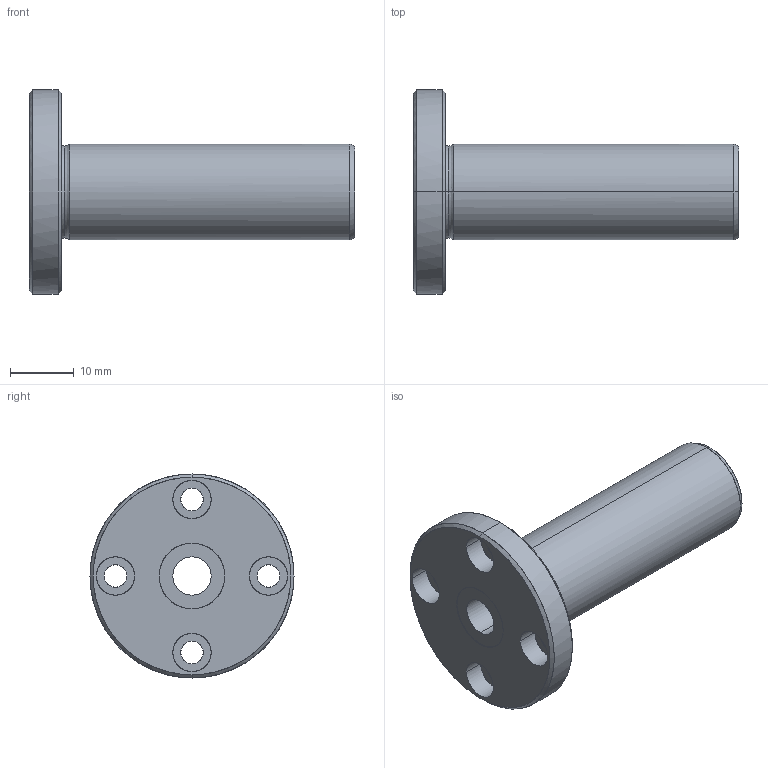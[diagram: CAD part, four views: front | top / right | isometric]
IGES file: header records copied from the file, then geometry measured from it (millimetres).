
Global section: file name: No Iges File Name specified; native system: AutoDesk Inventor R10; preprocessor: AutoDesk Inventor Iges Exporter R10; author: No Author specified; organization: No Organization specified; date: 20101211.161456; units: millimetre
Bounding box: 51 x 32 x 32 mm (x, y, z)
Surface area: 5368 mm2 (no closed solid volume)
Topology: 0 solids, 0 shells, 45 faces, 320 edges, 320 vertices
Faces by surface type: bspline 45
